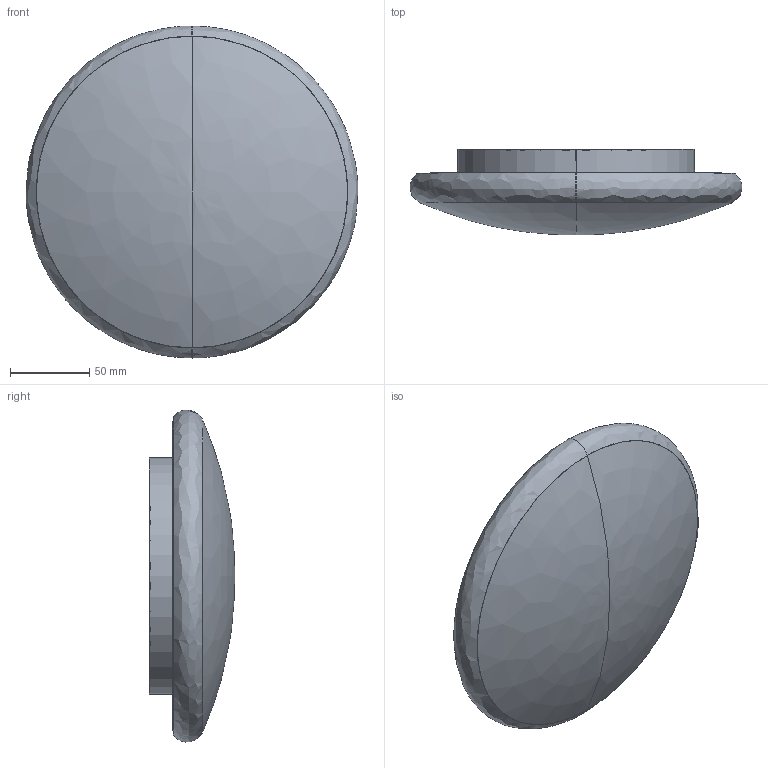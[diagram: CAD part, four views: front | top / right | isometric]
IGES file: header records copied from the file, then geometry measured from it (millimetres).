
Start section: SolidWorks IGES file using analytic representation for surfaces
Global section: file name: C:\Users\anna.bielnik\Desktop\astra led\NL2500025382.IGS; native system: SolidWorks 2024; preprocessor: SolidWorks 2024; author: anna.bielnik; date: 260121.100312; units: millimetre
Bounding box: 209.87 x 54.04 x 209.96 mm (x, y, z)
Surface area: 161735.7 mm2 (no closed solid volume)
Topology: 0 solids, 0 shells, 24 faces, 896 edges, 894 vertices
Faces by surface type: revolution 12, bspline 12
